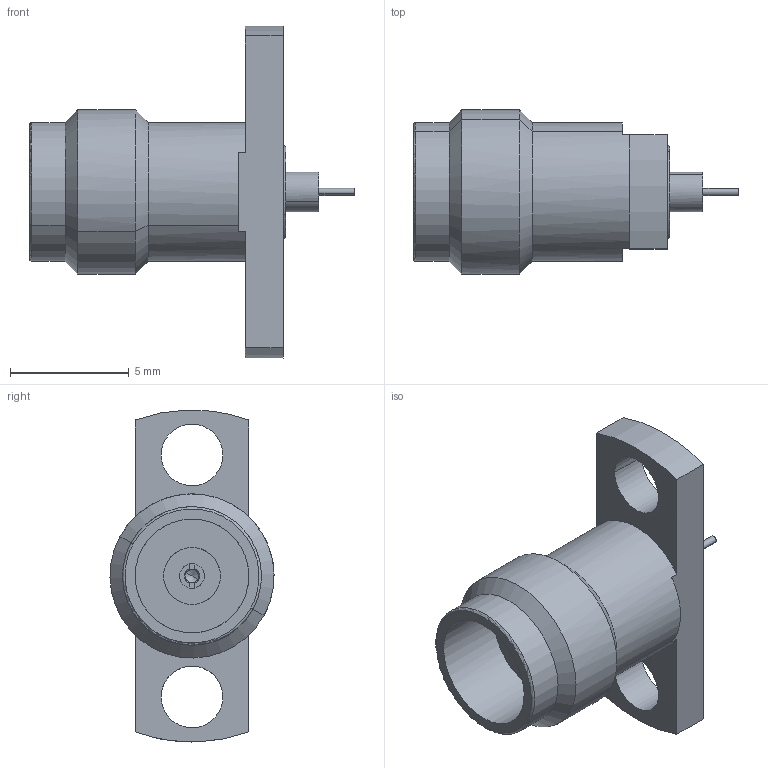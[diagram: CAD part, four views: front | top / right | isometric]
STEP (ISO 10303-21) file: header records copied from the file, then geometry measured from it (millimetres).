
FILE_DESCRIPTION(('CATIA V5 STEP Exchange'),'2;1');
FILE_NAME('F:\Work SZ\CMP 图纸\Precision Coaxial Connector\2.4mm\97-02-9E7-021\97-02-9E7-021A(REV.A).stp','2013-08-09T02:55:23+00:00',('none'),('none'),'CATIA Version 5 Release 17 (IN-10)','CATIA V5 STEP AP203','none');
FILE_SCHEMA(('CONFIG_CONTROL_DESIGN'));
Length unit declared in the file: millimetre
Products named in the file (1): 97-02-9E7-021A
Bounding box: 13.7 x 6.92 x 14 mm (x, y, z)
Volume: 302 mm3; surface area: 476.4 mm2
Topology: 1 solids, 1 shells, 60 faces, 145 edges, 91 vertices
Faces by surface type: cylinder 24, plane 21, cone 13, torus 2
Entity records: 2079 total; most frequent: CARTESIAN_POINT 753, ORIENTED_EDGE 286, DIRECTION 207, EDGE_CURVE 143, AXIS2_PLACEMENT_3D 93, VERTEX_POINT 91, EDGE_LOOP 70, VECTOR 65
